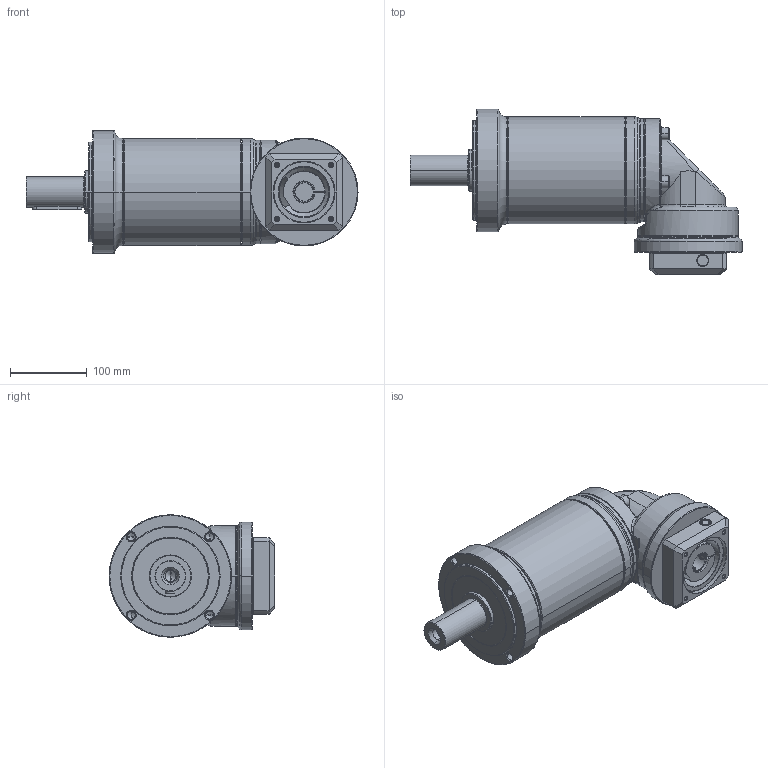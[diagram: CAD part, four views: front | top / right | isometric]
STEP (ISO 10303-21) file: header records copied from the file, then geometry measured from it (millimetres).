
FILE_DESCRIPTION((''),'2;1');
FILE_NAME('PG2R-160_3ST_24-P0411500101_ASM','2016-04-28T',('d01943'),(''),'PRO/ENGINEER BY PARAMETRIC TECHNOLOGY CORPORATION, 2008410','PRO/ENGINEER BY PARAMETRIC TECHNOLOGY CORPORATION, 2008410','');
FILE_SCHEMA(('CONFIG_CONTROL_DESIGN'));
Length unit declared in the file: millimetre
Products named in the file (12): P1325510001; P0273500001; P0350501103; P1349500001; P1017500001; P0713501001; P0503500008; P1350500101; P0411500101; P1702500001; 2111BA10040; PG2R-160_3ST_24-P0411500101_ASM
Assembly tree (14 placements, depth 2):
  PG2R-160_3ST_24-P0411500101_ASM
    P1325510001
    P0273500001
    P0350501103
    P1349500001
    P1017500001
    P0713501001
    P0503500008
    P1350500101
    P0411500101
    P1702500001
    2111BA10040  x4
Bounding box: 434 x 216.5 x 160 mm (x, y, z)
Volume: 3103152.9 mm3; surface area: 516715.9 mm2
Topology: 14 solids, 15 shells, 715 faces, 1571 edges, 910 vertices
Faces by surface type: cylinder 221, cone 198, plane 156, torus 108, bspline 32
Entity records: 22750 total; most frequent: CARTESIAN_POINT 8941, DIRECTION 3071, ORIENTED_EDGE 2666, EDGE_CURVE 1333, AXIS2_PLACEMENT_3D 1301, VERTEX_POINT 790, EDGE_LOOP 693, CIRCLE 691
